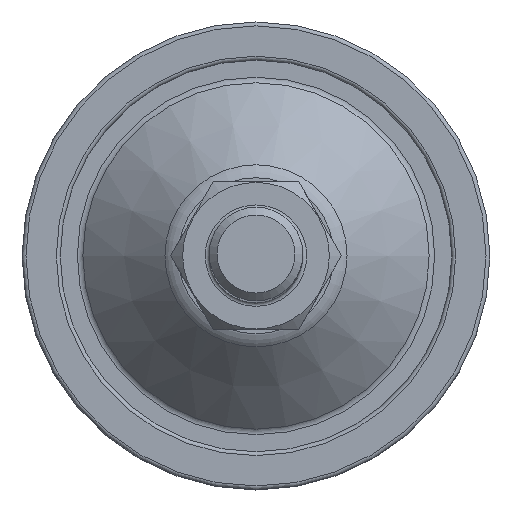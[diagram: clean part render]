
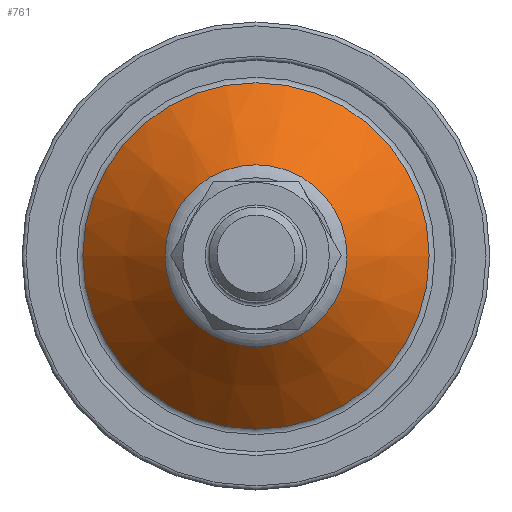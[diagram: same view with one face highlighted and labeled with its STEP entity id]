
A CAD part, top view. The second image highlights one B-rep face of the part: STEP entity #761.
In plain terms, the highlighted conical face has half-angle 45 degrees and reference radius 16.939 mm.
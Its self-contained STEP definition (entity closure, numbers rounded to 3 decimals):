
#125=FACE_BOUND('',#284,.T.);
#192=FACE_OUTER_BOUND('',#283,.T.);
#283=EDGE_LOOP('',(#644));
#284=EDGE_LOOP('',(#645));
#373=CIRCLE('',#849,11.672);
#381=CIRCLE('',#862,22.207);
#444=VERTEX_POINT('',#1314);
#452=VERTEX_POINT('',#1335);
#521=EDGE_CURVE('',#444,#444,#373,.T.);
#529=EDGE_CURVE('',#452,#452,#381,.T.);
#644=ORIENTED_EDGE('',*,*,#521,.T.);
#645=ORIENTED_EDGE('',*,*,#529,.F.);
#722=CONICAL_SURFACE('',#863,16.939,45.);
#761=ADVANCED_FACE('',(#192,#125),#722,.T.);
#849=AXIS2_PLACEMENT_3D('',#1315,#1030,#1031);
#862=AXIS2_PLACEMENT_3D('',#1336,#1056,#1057);
#863=AXIS2_PLACEMENT_3D('',#1337,#1058,#1059);
#1030=DIRECTION('center_axis',(0.,0.,-1.));
#1031=DIRECTION('ref_axis',(1.,0.,0.));
#1056=DIRECTION('center_axis',(0.,0.,-1.));
#1057=DIRECTION('ref_axis',(1.,0.,0.));
#1058=DIRECTION('center_axis',(0.,0.,-1.));
#1059=DIRECTION('ref_axis',(1.,0.,0.));
#1314=CARTESIAN_POINT('',(-12.214,0.663,-30.578));
#1315=CARTESIAN_POINT('Origin',(-0.543,0.663,-30.578));
#1335=CARTESIAN_POINT('',(-22.75,0.663,-41.113));
#1336=CARTESIAN_POINT('Origin',(-0.543,0.663,-41.113));
#1337=CARTESIAN_POINT('Origin',(-0.543,0.663,-35.846));
